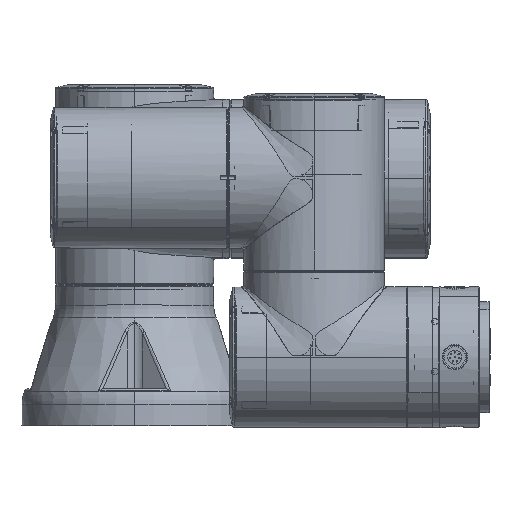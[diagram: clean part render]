
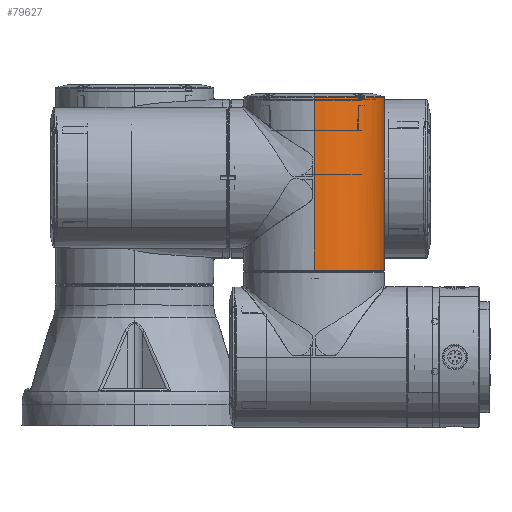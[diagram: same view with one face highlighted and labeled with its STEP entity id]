
A CAD part, top view. The second image highlights one B-rep face of the part: STEP entity #79627.
In plain terms, the highlighted cylindrical face has radius 40 mm (diameter 80 mm), a partial arc.
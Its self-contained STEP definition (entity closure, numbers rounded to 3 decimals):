
#386 = CARTESIAN_POINT ( 'NONE',  ( 0., 0., -52.498 ) ) ;
#1065 = VECTOR ( 'NONE', #17789, 1000. ) ;
#1780 = DIRECTION ( 'NONE',  ( 0., 0., 1. ) ) ;
#3852 = EDGE_CURVE ( 'NONE', #14296, #116095, #138535, .T. ) ;
#4843 = AXIS2_PLACEMENT_3D ( 'NONE', #128465, #117983, #52664 ) ;
#6290 = CARTESIAN_POINT ( 'NONE',  ( -1.005, 39.987, 48. ) ) ;
#7042 = DIRECTION ( 'NONE',  ( 0., 0., -1. ) ) ;
#7282 = FACE_OUTER_BOUND ( 'NONE', #50747, .T. ) ;
#7519 = CARTESIAN_POINT ( 'NONE',  ( -40., 0., 48. ) ) ;
#8184 = CARTESIAN_POINT ( 'NONE',  ( 0., 0., 45.4 ) ) ;
#9108 = DIRECTION ( 'NONE',  ( -1., 0., 0. ) ) ;
#11397 = VERTEX_POINT ( 'NONE', #98965 ) ;
#14296 = VERTEX_POINT ( 'NONE', #123397 ) ;
#14628 = VERTEX_POINT ( 'NONE', #119991 ) ;
#14996 = AXIS2_PLACEMENT_3D ( 'NONE', #386, #132085, #88787 ) ;
#15878 = AXIS2_PLACEMENT_3D ( 'NONE', #138703, #62845, #84463 ) ;
#17360 = ORIENTED_EDGE ( 'NONE', *, *, #110657, .T. ) ;
#17458 = LINE ( 'NONE', #6290, #116619 ) ;
#17623 = CARTESIAN_POINT ( 'NONE',  ( 40., 0., 45.4 ) ) ;
#17789 = DIRECTION ( 'NONE',  ( 0., 0., -1. ) ) ;
#19980 = EDGE_CURVE ( 'NONE', #94791, #103056, #17458, .T. ) ;
#20425 = AXIS2_PLACEMENT_3D ( 'NONE', #133418, #23113, #100605 ) ;
#20918 = VECTOR ( 'NONE', #127201, 1000. ) ;
#22313 = VECTOR ( 'NONE', #7042, 1000. ) ;
#22638 = ORIENTED_EDGE ( 'NONE', *, *, #136644, .T. ) ;
#23113 = DIRECTION ( 'NONE',  ( 0., 0., -1. ) ) ;
#26498 = LINE ( 'NONE', #49903, #125533 ) ;
#27344 = EDGE_CURVE ( 'NONE', #116095, #38092, #106953, .T. ) ;
#29936 = AXIS2_PLACEMENT_3D ( 'NONE', #46756, #123028, #68767 ) ;
#30219 = DIRECTION ( 'NONE',  ( 0., 0., -1. ) ) ;
#31966 = VERTEX_POINT ( 'NONE', #17623 ) ;
#38092 = VERTEX_POINT ( 'NONE', #104823 ) ;
#39771 = CARTESIAN_POINT ( 'NONE',  ( -40., 0., 48. ) ) ;
#42258 = CIRCLE ( 'NONE', #20425, 40. ) ;
#46756 = CARTESIAN_POINT ( 'NONE',  ( 0., 0., 48. ) ) ;
#48083 = CARTESIAN_POINT ( 'NONE',  ( -1.005, 39.987, -49. ) ) ;
#49151 = CARTESIAN_POINT ( 'NONE',  ( -1.005, 39.987, -52.498 ) ) ;
#49903 = CARTESIAN_POINT ( 'NONE',  ( 40., 0., 48. ) ) ;
#50303 = VECTOR ( 'NONE', #1780, 1000. ) ;
#50747 = EDGE_LOOP ( 'NONE', ( #17360, #136556, #88039, #79941, #115344, #22638, #141331, #121044, #70323, #121919, #97329 ) ) ;
#52664 = DIRECTION ( 'NONE',  ( -1., 0., 0. ) ) ;
#62845 = DIRECTION ( 'NONE',  ( 0., 0., 1. ) ) ;
#66363 = CIRCLE ( 'NONE', #14996, 40. ) ;
#67356 = CARTESIAN_POINT ( 'NONE',  ( 40., 0., 0. ) ) ;
#68767 = DIRECTION ( 'NONE',  ( -1., 0., 0. ) ) ;
#70305 = AXIS2_PLACEMENT_3D ( 'NONE', #8184, #84731, #9108 ) ;
#70323 = ORIENTED_EDGE ( 'NONE', *, *, #116370, .T. ) ;
#76851 = CARTESIAN_POINT ( 'NONE',  ( 1.005, 39.987, 48. ) ) ;
#79184 = LINE ( 'NONE', #115736, #20918 ) ;
#79627 = ADVANCED_FACE ( 'NONE', ( #7282 ), #92608, .T. ) ;
#79941 = ORIENTED_EDGE ( 'NONE', *, *, #126335, .T. ) ;
#81005 = EDGE_CURVE ( 'NONE', #31966, #110900, #26498, .T. ) ;
#84463 = DIRECTION ( 'NONE',  ( -1., 0., 0. ) ) ;
#84731 = DIRECTION ( 'NONE',  ( 0., 0., -1. ) ) ;
#87793 = LINE ( 'NONE', #76851, #50303 ) ;
#88039 = ORIENTED_EDGE ( 'NONE', *, *, #81005, .T. ) ;
#88787 = DIRECTION ( 'NONE',  ( -1., 0., 0. ) ) ;
#92608 = CYLINDRICAL_SURFACE ( 'NONE', #29936, 40. ) ;
#93560 = CIRCLE ( 'NONE', #70305, 40. ) ;
#94791 = VERTEX_POINT ( 'NONE', #48083 ) ;
#97329 = ORIENTED_EDGE ( 'NONE', *, *, #3852, .F. ) ;
#98885 = EDGE_CURVE ( 'NONE', #116984, #94791, #135978, .T. ) ;
#98965 = CARTESIAN_POINT ( 'NONE',  ( 28.284, 28.284, 45.4 ) ) ;
#100605 = DIRECTION ( 'NONE',  ( -1., 0., 0. ) ) ;
#103056 = VERTEX_POINT ( 'NONE', #49151 ) ;
#104808 = EDGE_CURVE ( 'NONE', #14628, #138809, #66363, .T. ) ;
#104823 = CARTESIAN_POINT ( 'NONE',  ( -40., 0., -52.498 ) ) ;
#106953 = LINE ( 'NONE', #39771, #1065 ) ;
#110657 = EDGE_CURVE ( 'NONE', #14296, #11397, #93560, .T. ) ;
#110900 = VERTEX_POINT ( 'NONE', #67356 ) ;
#112550 = CARTESIAN_POINT ( 'NONE',  ( 1.005, 39.987, -52.498 ) ) ;
#114649 = DIRECTION ( 'NONE',  ( 0., 0., -1. ) ) ;
#115344 = ORIENTED_EDGE ( 'NONE', *, *, #104808, .T. ) ;
#115736 = CARTESIAN_POINT ( 'NONE',  ( 40., 0., 48. ) ) ;
#116095 = VERTEX_POINT ( 'NONE', #141365 ) ;
#116370 = EDGE_CURVE ( 'NONE', #103056, #38092, #134621, .T. ) ;
#116619 = VECTOR ( 'NONE', #114649, 1000. ) ;
#116984 = VERTEX_POINT ( 'NONE', #118525 ) ;
#117983 = DIRECTION ( 'NONE',  ( 0., 0., 1. ) ) ;
#118525 = CARTESIAN_POINT ( 'NONE',  ( 1.005, 39.987, -49. ) ) ;
#119991 = CARTESIAN_POINT ( 'NONE',  ( 40., 0., -52.498 ) ) ;
#121044 = ORIENTED_EDGE ( 'NONE', *, *, #19980, .T. ) ;
#121919 = ORIENTED_EDGE ( 'NONE', *, *, #27344, .F. ) ;
#123028 = DIRECTION ( 'NONE',  ( 0., 0., -1. ) ) ;
#123397 = CARTESIAN_POINT ( 'NONE',  ( -40., 0., 45.4 ) ) ;
#125533 = VECTOR ( 'NONE', #30219, 1000. ) ;
#126335 = EDGE_CURVE ( 'NONE', #110900, #14628, #79184, .T. ) ;
#127201 = DIRECTION ( 'NONE',  ( 0., 0., -1. ) ) ;
#128465 = CARTESIAN_POINT ( 'NONE',  ( 0., 0., -49. ) ) ;
#129496 = EDGE_CURVE ( 'NONE', #11397, #31966, #42258, .T. ) ;
#132085 = DIRECTION ( 'NONE',  ( 0., 0., 1. ) ) ;
#133418 = CARTESIAN_POINT ( 'NONE',  ( 0., 0., 45.4 ) ) ;
#134621 = CIRCLE ( 'NONE', #15878, 40. ) ;
#135978 = CIRCLE ( 'NONE', #4843, 40. ) ;
#136556 = ORIENTED_EDGE ( 'NONE', *, *, #129496, .T. ) ;
#136644 = EDGE_CURVE ( 'NONE', #138809, #116984, #87793, .T. ) ;
#138535 = LINE ( 'NONE', #7519, #22313 ) ;
#138703 = CARTESIAN_POINT ( 'NONE',  ( 0., 0., -52.498 ) ) ;
#138809 = VERTEX_POINT ( 'NONE', #112550 ) ;
#141331 = ORIENTED_EDGE ( 'NONE', *, *, #98885, .T. ) ;
#141365 = CARTESIAN_POINT ( 'NONE',  ( -40., 0., 0. ) ) ;
